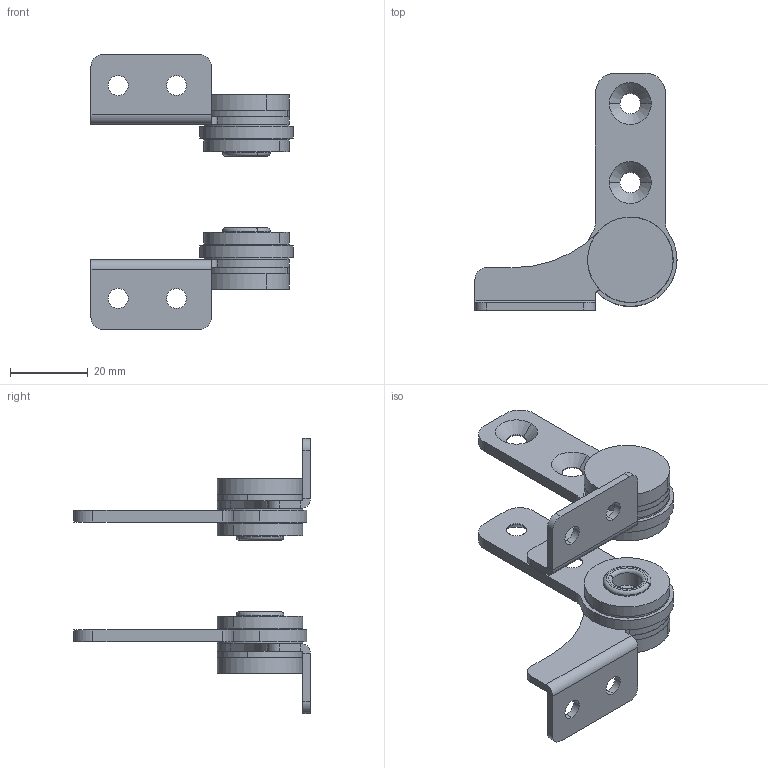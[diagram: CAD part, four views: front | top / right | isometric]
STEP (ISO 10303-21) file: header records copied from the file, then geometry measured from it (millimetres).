
FILE_DESCRIPTION (( 'STEP AP203' ), '1' );
FILE_NAME ('XG11-009-2.STEP', '2023-12-04T06:16:53', ( '' ), ( '' ), 'SwSTEP 2.0', 'SolidWorks 2020', '' );
FILE_SCHEMA (( 'CONFIG_CONTROL_DESIGN' ));
Length unit declared in the file: millimetre
Products named in the file (15): 葩璃 (6) ; 噩砃葩璃 (2) ; 葩璃 (7) ^DP010-2r_1(2); 噩砃葩璃 (6) ; 葩璃 (2) ; XG11-009-2; 噩砃葩璃 (7) ^噩砃DP010-2r_1(2); DP010-2r_1(2); 噩砃葩璃 (4) ; 噩砃葩璃 (5) ; 葩璃 (3) ; 葩璃 (4) ; 葩璃 (5) ; 噩砃葩璃 (3) ; 噩砃DP010-2r_1(2)
Assembly tree (16 placements, depth 3):
  XG11-009-2
    DP010-2r_1(2)
      葩璃 (2) 
      葩璃 (3) 
      葩璃 (4)   x2
      葩璃 (5) 
      葩璃 (6) 
      葩璃 (7) ^DP010-2r_1(2)
    噩砃DP010-2r_1(2)
      噩砃葩璃 (2) 
      噩砃葩璃 (3) 
      噩砃葩璃 (4)   x2
      噩砃葩璃 (5) 
      噩砃葩璃 (6) 
      噩砃葩璃 (7) ^噩砃DP010-2r_1(2)
Bounding box: 52 x 61 x 70.8 mm (x, y, z)
Volume: 17798.6 mm3; surface area: 19600.8 mm2
Topology: 14 solids, 14 shells, 210 faces, 498 edges, 318 vertices
Faces by surface type: cylinder 120, plane 70, cone 12, torus 8
Entity records: 7547 total; most frequent: DIRECTION 1156, CARTESIAN_POINT 991, ORIENTED_EDGE 940, EDGE_CURVE 470, AXIS2_PLACEMENT_3D 467, VERTEX_POINT 302, CIRCLE 248, EDGE_LOOP 240
